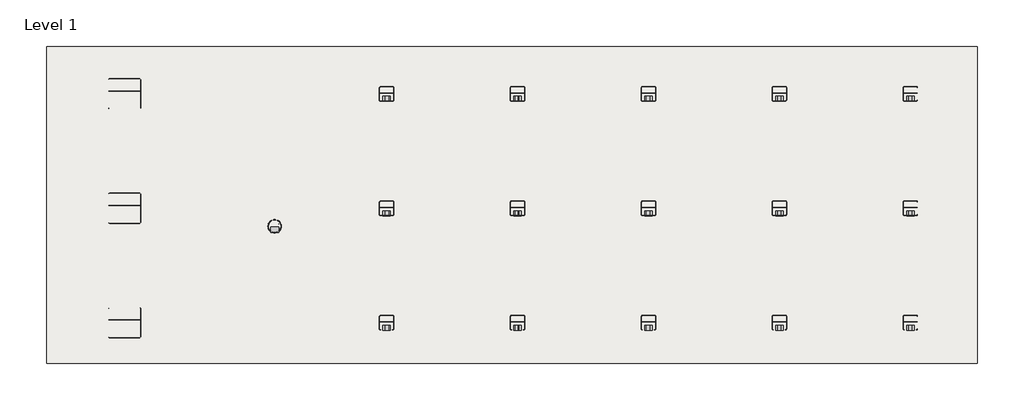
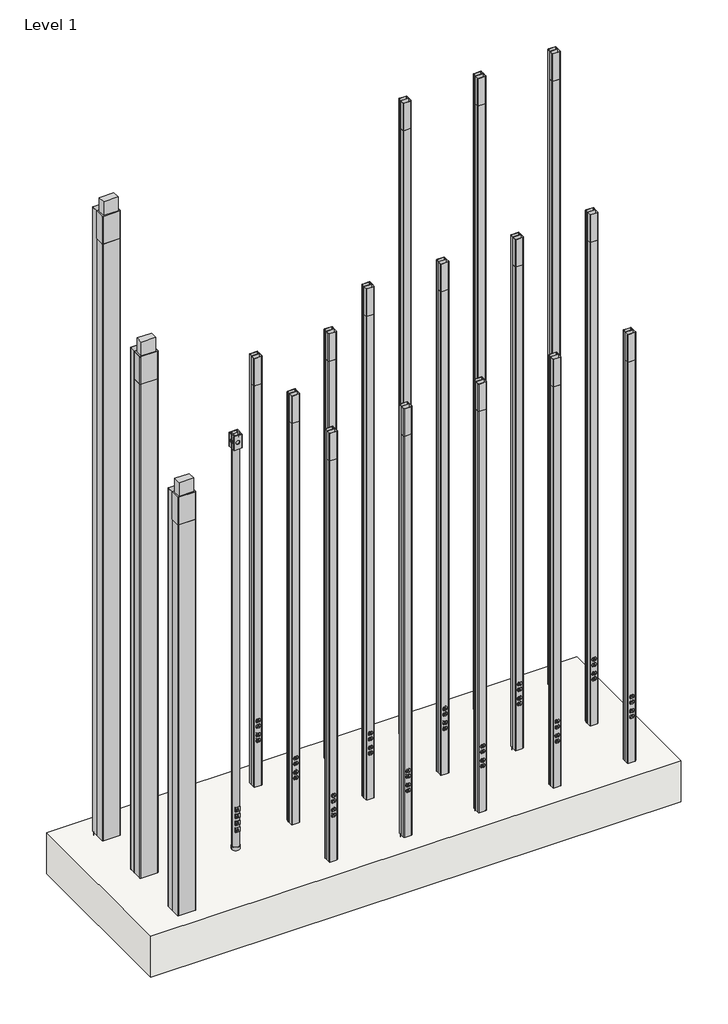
# One storey: 19 proxies, 1 slab.
"""IFC4 building model written with IfcOpenShell, lengths in millimetres."""

from ifc_helpers import new_model, si_unit, frame, origin, place, context, project, spatial, polyline, outline, extrude, transform, mapped, element, save
from components import electrical_fixtures_92e26248, electrical_fixtures_449e16e0, electrical_fixtures_2f8abb04, electrical_fixtures_3d823aef, electrical_fixtures_73bc812c, electrical_fixtures_7f244660, electrical_fixtures_ff8074c1, electrical_fixtures_2617ac09

model = new_model("IFC4")

# Units and contexts
model_context = context("Model", 3, world=origin())
ifc_project = project(units=[si_unit("LENGTHUNIT", "METRE", prefix="MILLI")], contexts=[model_context])

# Site, building, storey
site = spatial("IfcSite", under=ifc_project)
building = spatial("IfcBuilding", under=site)
storey = spatial("IfcBuildingStorey", under=building, Name="Level 1", Elevation=0.0)

# Proxies
placement = place(None, origin())
electrical_fixtures_shape = electrical_fixtures_92e26248(model_context)
element("IfcBuildingElementProxy", 1, Name="Jumbo_Tele_Pole-Wiremold-Blank_Aluminum_Pole : NP800C-10-2B", ObjectType="Jumbo_Tele_Pole-Wiremold-Blank_Aluminum_Pole : NP800C-10-2B", at=placement, inside=storey, context=model_context, shape_type="MappedRepresentation", body=[
    mapped(electrical_fixtures_shape, transform((773.2816698, 1054.9921437, 0.0), x_axis=(1.0, 0.0, 0.0), y_axis=(0.0, 1.0, 0.0), z_axis=(0.0, 0.0, 1.0))),
])
electrical_fixtures_2_shape = electrical_fixtures_449e16e0(model_context)
element("IfcBuildingElementProxy", 2, Name="Jumbo_Tele_Pole-Wiremold-Blank_Aluminum_Pole : NP800C-12-8B", ObjectType="Jumbo_Tele_Pole-Wiremold-Blank_Aluminum_Pole : NP800C-12-8B", at=placement, inside=storey, context=model_context, shape_type="MappedRepresentation", body=[
    mapped(electrical_fixtures_2_shape, transform((773.2816698, 1512.1921437, 0.0), x_axis=(1.0, 0.0, 0.0), y_axis=(0.0, 1.0, 0.0), z_axis=(0.0, 0.0, 1.0))),
])
electrical_fixtures_3_shape = electrical_fixtures_2f8abb04(model_context)
element("IfcBuildingElementProxy", 3, Name="Jumbo_Tele_Pole-Wiremold-Blank_Aluminum_Pole : NP800C-15-2B", ObjectType="Jumbo_Tele_Pole-Wiremold-Blank_Aluminum_Pole : NP800C-15-2B", at=placement, inside=storey, context=model_context, shape_type="MappedRepresentation", body=[
    mapped(electrical_fixtures_3_shape, transform((773.2816698, 1969.3921437, 0.0), x_axis=(1.0, 0.0, 0.0), y_axis=(0.0, 1.0, 0.0), z_axis=(0.0, 0.0, 1.0))),
])
electrical_fixtures_4_shape = electrical_fixtures_3d823aef(model_context)
element("IfcBuildingElementProxy", 4, Name="Tele-Power_Poles-Wiremold-Aluminum_Tele-Power_Pole : AMDTP-4 - Aluminum", ObjectType="Tele-Power_Poles-Wiremold-Aluminum_Tele-Power_Pole : AMDTP-4 - Aluminum", at=placement, inside=storey, context=model_context, shape_type="MappedRepresentation", body=[
    mapped(electrical_fixtures_4_shape, transform((3908.3673841, 1113.4077687, 0.0), x_axis=(1.0, 0.0, 0.0), y_axis=(0.0, 1.0, 0.0), z_axis=(0.0, 0.0, 1.0))),
])
electrical_fixtures_5_shape = electrical_fixtures_73bc812c(model_context)
element("IfcBuildingElementProxy", 5, Name="Tele-Power_Poles-Wiremold-Aluminum_Tele-Power_Pole : AMDTP-4D - Aluminum", ObjectType="Tele-Power_Poles-Wiremold-Aluminum_Tele-Power_Pole : AMDTP-4D - Aluminum", at=placement, inside=storey, context=model_context, shape_type="MappedRepresentation", body=[
    mapped(electrical_fixtures_5_shape, transform((2340.824527, 1113.4077687, 0.0), x_axis=(1.0, 0.0, 0.0), y_axis=(0.0, 1.0, 0.0), z_axis=(0.0, 0.0, 1.0))),
])
element("IfcBuildingElementProxy", 6, Name="Tele-Power_Poles-Wiremold-Aluminum_Tele-Power_Pole : AMDTP-4D - Aluminum", ObjectType="Tele-Power_Poles-Wiremold-Aluminum_Tele-Power_Pole : AMDTP-4D - Aluminum", at=placement, inside=storey, context=model_context, shape_type="MappedRepresentation", body=[
    mapped(electrical_fixtures_5_shape, transform((1818.3102413, 1113.4077687, 0.0), x_axis=(1.0, 0.0, 0.0), y_axis=(0.0, 1.0, 0.0), z_axis=(0.0, 0.0, 1.0))),
])
element("IfcBuildingElementProxy", 7, Name="Tele-Power_Poles-Wiremold-Aluminum_Tele-Power_Pole : AMDTP-4 - Satin", ObjectType="Tele-Power_Poles-Wiremold-Aluminum_Tele-Power_Pole : AMDTP-4 - Satin", at=placement, inside=storey, context=model_context, shape_type="MappedRepresentation", body=[
    mapped(electrical_fixtures_4_shape, transform((2863.3388127, 1113.4077687, 0.0), x_axis=(1.0, 0.0, 0.0), y_axis=(0.0, 1.0, 0.0), z_axis=(0.0, 0.0, 1.0))),
])
element("IfcBuildingElementProxy", 8, Name="Tele-Power_Poles-Wiremold-Aluminum_Tele-Power_Pole : AMDTP-4D - Satin", ObjectType="Tele-Power_Poles-Wiremold-Aluminum_Tele-Power_Pole : AMDTP-4D - Satin", at=placement, inside=storey, context=model_context, shape_type="MappedRepresentation", body=[
    mapped(electrical_fixtures_5_shape, transform((2340.824527, 2027.8077687, 0.0), x_axis=(1.0, 0.0, 0.0), y_axis=(0.0, 1.0, 0.0), z_axis=(0.0, 0.0, 1.0))),
])
element("IfcBuildingElementProxy", 9, Name="Tele-Power_Poles-Wiremold-Aluminum_Tele-Power_Pole : AMDTP-4D - Satin", ObjectType="Tele-Power_Poles-Wiremold-Aluminum_Tele-Power_Pole : AMDTP-4D - Satin", at=placement, inside=storey, context=model_context, shape_type="MappedRepresentation", body=[
    mapped(electrical_fixtures_5_shape, transform((1818.3102413, 2027.8077687, 0.0), x_axis=(1.0, 0.0, 0.0), y_axis=(0.0, 1.0, 0.0), z_axis=(0.0, 0.0, 1.0))),
])
element("IfcBuildingElementProxy", 10, Name="Tele-Power_Poles-Wiremold-Aluminum_Tele-Power_Pole : AMDTP-4D - Anodized", ObjectType="Tele-Power_Poles-Wiremold-Aluminum_Tele-Power_Pole : AMDTP-4D - Anodized", at=placement, inside=storey, context=model_context, shape_type="MappedRepresentation", body=[
    mapped(electrical_fixtures_5_shape, transform((1818.3102413, 1570.6077687, 0.0), x_axis=(1.0, 0.0, 0.0), y_axis=(0.0, 1.0, 0.0), z_axis=(0.0, 0.0, 1.0))),
])
electrical_fixtures_6_shape = electrical_fixtures_7f244660(model_context)
element("IfcBuildingElementProxy", 11, Name="Tele-Power_Poles-Wiremold-Aluminum_Tele-Power_Pole : AMDTP-412 - Aluminum", ObjectType="Tele-Power_Poles-Wiremold-Aluminum_Tele-Power_Pole : AMDTP-412 - Aluminum", at=placement, inside=storey, context=model_context, shape_type="MappedRepresentation", body=[
    mapped(electrical_fixtures_6_shape, transform((3908.3673841, 1570.6077687, 0.0), x_axis=(1.0, 0.0, 0.0), y_axis=(0.0, 1.0, 0.0), z_axis=(0.0, 0.0, 1.0))),
])
element("IfcBuildingElementProxy", 12, Name="Tele-Power_Poles-Wiremold-Aluminum_Tele-Power_Pole : AMDTP-412 - Satin", ObjectType="Tele-Power_Poles-Wiremold-Aluminum_Tele-Power_Pole : AMDTP-412 - Satin", at=placement, inside=storey, context=model_context, shape_type="MappedRepresentation", body=[
    mapped(electrical_fixtures_6_shape, transform((2863.3388127, 1570.6077687, 0.0), x_axis=(1.0, 0.0, 0.0), y_axis=(0.0, 1.0, 0.0), z_axis=(0.0, 0.0, 1.0))),
])
element("IfcBuildingElementProxy", 13, Name="Tele-Power_Poles-Wiremold-Aluminum_Tele-Power_Pole : AMDTP-4 - Anodized", ObjectType="Tele-Power_Poles-Wiremold-Aluminum_Tele-Power_Pole : AMDTP-4 - Anodized", at=placement, inside=storey, context=model_context, shape_type="MappedRepresentation", body=[
    mapped(electrical_fixtures_4_shape, transform((3385.8530984, 1113.4077687, 0.0), x_axis=(1.0, 0.0, 0.0), y_axis=(0.0, 1.0, 0.0), z_axis=(0.0, 0.0, 1.0))),
])
element("IfcBuildingElementProxy", 14, Name="Tele-Power_Poles-Wiremold-Aluminum_Tele-Power_Pole : AMDTP-412 - Anodized", ObjectType="Tele-Power_Poles-Wiremold-Aluminum_Tele-Power_Pole : AMDTP-412 - Anodized", at=placement, inside=storey, context=model_context, shape_type="MappedRepresentation", body=[
    mapped(electrical_fixtures_6_shape, transform((3385.8530984, 1570.6077687, 0.0), x_axis=(1.0, 0.0, 0.0), y_axis=(0.0, 1.0, 0.0), z_axis=(0.0, 0.0, 1.0))),
])
element("IfcBuildingElementProxy", 15, Name="Tele-Power_Poles-Wiremold-Aluminum_Tele-Power_Pole : AMDTP-412 - Anodized", ObjectType="Tele-Power_Poles-Wiremold-Aluminum_Tele-Power_Pole : AMDTP-412 - Anodized", at=placement, inside=storey, context=model_context, shape_type="MappedRepresentation", body=[
    mapped(electrical_fixtures_6_shape, transform((2340.824527, 1570.6077687, 0.0), x_axis=(1.0, 0.0, 0.0), y_axis=(0.0, 1.0, 0.0), z_axis=(0.0, 0.0, 1.0))),
])
electrical_fixtures_7_shape = electrical_fixtures_ff8074c1(model_context)
element("IfcBuildingElementProxy", 16, Name="Tele-Power_Poles-Wiremold-Aluminum_Tele-Power_Pole : AMDTP-415 - Aluminum", ObjectType="Tele-Power_Poles-Wiremold-Aluminum_Tele-Power_Pole : AMDTP-415 - Aluminum", at=placement, inside=storey, context=model_context, shape_type="MappedRepresentation", body=[
    mapped(electrical_fixtures_7_shape, transform((3908.3673841, 2027.8077687, 0.0), x_axis=(1.0, 0.0, 0.0), y_axis=(0.0, 1.0, 0.0), z_axis=(0.0, 0.0, 1.0))),
])
element("IfcBuildingElementProxy", 17, Name="Tele-Power_Poles-Wiremold-Aluminum_Tele-Power_Pole : AMDTP-415 - Anodized", ObjectType="Tele-Power_Poles-Wiremold-Aluminum_Tele-Power_Pole : AMDTP-415 - Anodized", at=placement, inside=storey, context=model_context, shape_type="MappedRepresentation", body=[
    mapped(electrical_fixtures_7_shape, transform((3385.8530984, 2027.8077687, 0.0), x_axis=(1.0, 0.0, 0.0), y_axis=(0.0, 1.0, 0.0), z_axis=(0.0, 0.0, 1.0))),
])
element("IfcBuildingElementProxy", 18, Name="Tele-Power_Poles-Wiremold-Aluminum_Tele-Power_Pole : AMDTP-415 - Satin", ObjectType="Tele-Power_Poles-Wiremold-Aluminum_Tele-Power_Pole : AMDTP-415 - Satin", at=placement, inside=storey, context=model_context, shape_type="MappedRepresentation", body=[
    mapped(electrical_fixtures_7_shape, transform((2863.3388127, 2027.8077687, 0.0), x_axis=(1.0, 0.0, 0.0), y_axis=(0.0, 1.0, 0.0), z_axis=(0.0, 0.0, 1.0))),
])
electrical_fixtures_8_shape = electrical_fixtures_2617ac09(model_context)
element("IfcBuildingElementProxy", 19, Name="Tele-Power_Poles-Wiremold-Aluminum_Tele-Power_Pole_Round : Tele-Power_Poles-Wiremold-Aluminum_Tele-Power_Pole_Round", ObjectType="Tele-Power_Poles-Wiremold-Aluminum_Tele-Power_Pole_Round : Tele-Power_Poles-Wiremold-Aluminum_Tele-Power_Pole_Round", at=placement, inside=storey, context=model_context, shape_type="MappedRepresentation", body=[
    mapped(electrical_fixtures_8_shape, transform((1371.9959556, 1498.9922594, 0.0), x_axis=(1.0, 0.0, 0.0), y_axis=(0.0, 1.0, 0.0), z_axis=(0.0, 0.0, 1.0))),
])

# Slab
element("IfcSlab", 20, ObjectType="Generic - 12\"", at=placement, inside=storey, context=model_context, shape_type="SweptSolid", body=[
    extrude(outline(polyline([(4176.3473575, 2217.1766815), (4176.3473575, 951.344622), (461.5973575, 951.344622), (461.5973575, 2217.1766815), (4176.3473575, 2217.1766815)])), frame((0.0, 0.0, -304.8), z_axis=(0.0, 0.0, 1.0), x_axis=(1.0, 0.0, 0.0)), (0.0, 0.0, 1.0), 304.8),
])

save(model, "model.ifc")
